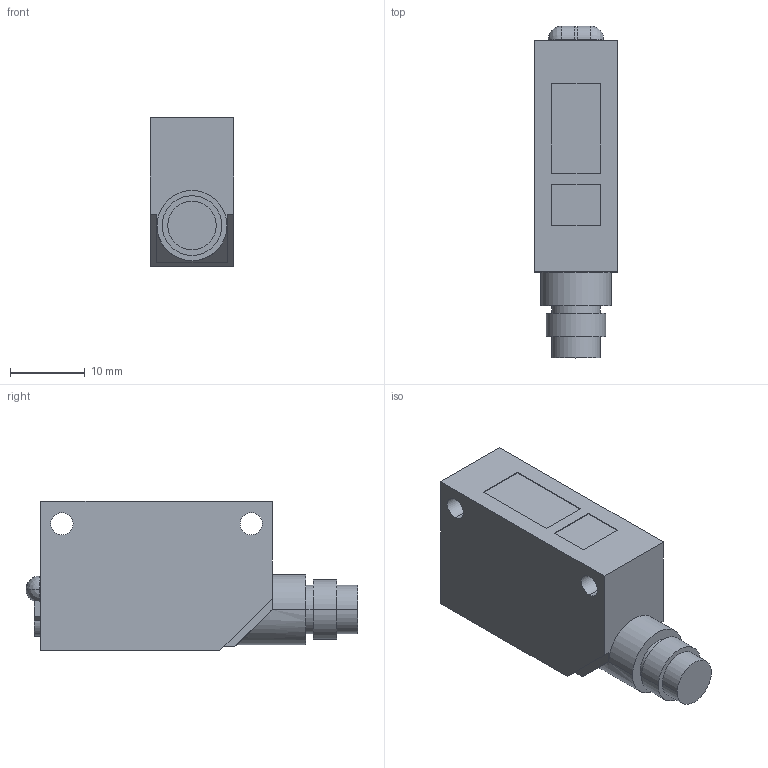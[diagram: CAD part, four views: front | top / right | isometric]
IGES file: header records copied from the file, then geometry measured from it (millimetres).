
Start section: SolidWorks IGES FILE using analytic representation for surfaces
Global section: file name: \\Intra-srv04\開発データ\CAD_Data\CAD委員会\3D電子ｶﾀﾛｸﾞ\製品カタログ（新）\0_IGES\CX-441-Z.IGS,41HSolidWorks 2004; native system: by SolidWorks Corporation; preprocessor: Version 5.3; author: yk0651; date: 050905.114547; units: millimetre
Bounding box: 11.2 x 44.5 x 20 mm (x, y, z)
Volume: 7301.9 mm3; surface area: 2888.2 mm2
Topology: 1 solids, 1 shells, 67 faces, 165 edges, 104 vertices
Faces by surface type: plane 37, revolution 30
